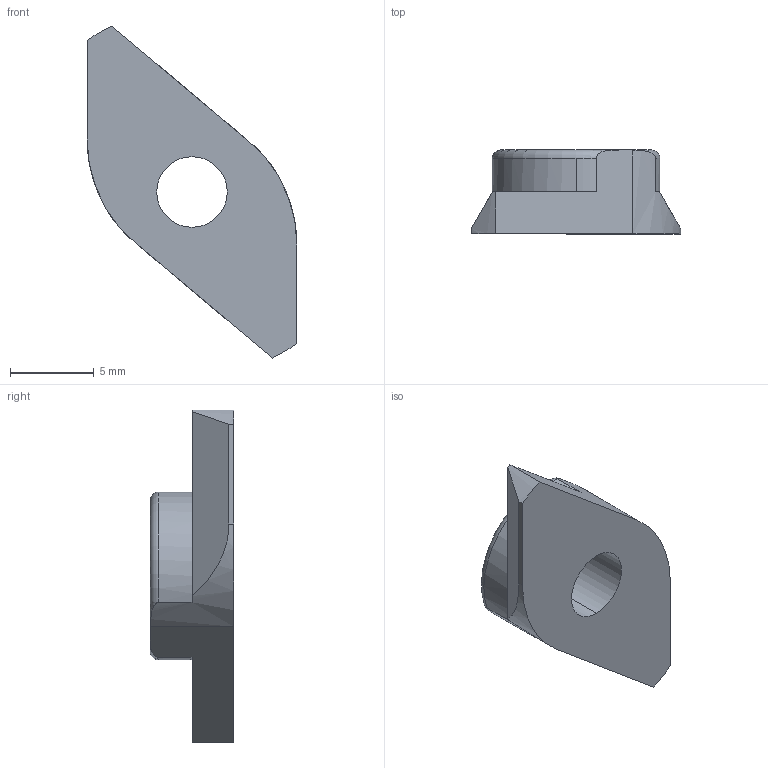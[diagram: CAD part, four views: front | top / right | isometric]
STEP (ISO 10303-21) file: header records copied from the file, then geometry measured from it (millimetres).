
FILE_DESCRIPTION (( 'STEP AP214' ), '1' );
FILE_NAME ('26374_0t.STEP', '2017-02-24T10:37:40', ( '' ), ( '' ), 'SwSTEP 2.0', 'SolidWorks 2016', '' );
FILE_SCHEMA (( 'AUTOMOTIVE_DESIGN' ));
Length unit declared in the file: millimetre
Products named in the file (1): 26374_0t
Bounding box: 12.5 x 5 x 19.8 mm (x, y, z)
Volume: 442.1 mm3; surface area: 494.6 mm2
Topology: 1 solids, 1 shells, 28 faces, 72 edges, 46 vertices
Faces by surface type: plane 14, cylinder 9, torus 3, cone 2
Entity records: 957 total; most frequent: CARTESIAN_POINT 213, DIRECTION 147, ORIENTED_EDGE 144, EDGE_CURVE 72, AXIS2_PLACEMENT_3D 56, VERTEX_POINT 46, LINE 35, VECTOR 35
